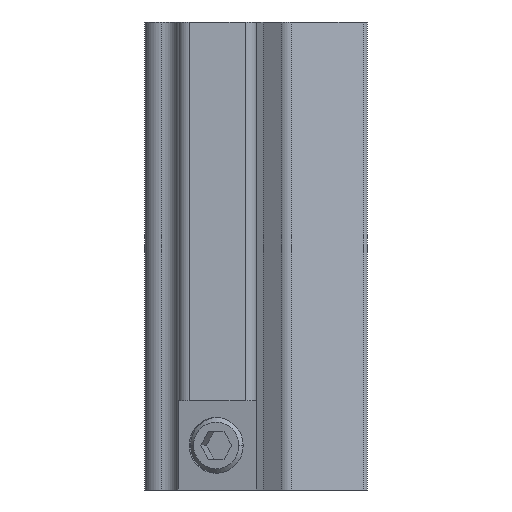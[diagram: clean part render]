
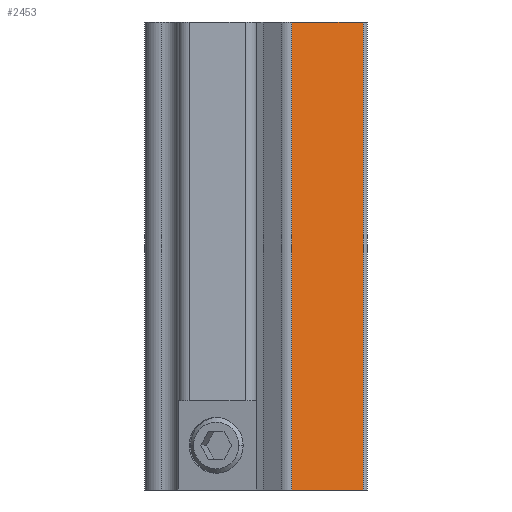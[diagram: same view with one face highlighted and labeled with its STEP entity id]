
A CAD part, front view. The second image highlights one B-rep face of the part: STEP entity #2453.
In plain terms, the highlighted planar face has unit normal (0.292, -0.956, 0).
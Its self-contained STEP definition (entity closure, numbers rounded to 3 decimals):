
#273=DIRECTION('',(-0.956,-0.292,0.));
#274=VECTOR('',#273,6.704);
#275=CARTESIAN_POINT('',(11.385,17.505,34.));
#276=LINE('',#275,#274);
#799=DIRECTION('',(0.,0.,-1.));
#800=VECTOR('',#799,42.);
#801=CARTESIAN_POINT('',(4.974,15.545,34.));
#802=LINE('',#801,#800);
#806=DIRECTION('',(0.,0.,1.));
#807=VECTOR('',#806,42.);
#808=CARTESIAN_POINT('',(11.385,17.505,-8.));
#809=LINE('',#808,#807);
#1108=DIRECTION('',(0.956,0.292,0.));
#1109=VECTOR('',#1108,6.704);
#1110=CARTESIAN_POINT('',(4.974,15.545,-8.));
#1111=LINE('',#1110,#1109);
#1730=CARTESIAN_POINT('',(11.385,17.505,34.));
#1731=VERTEX_POINT('',#1730);
#1732=CARTESIAN_POINT('',(4.974,15.545,34.));
#1733=VERTEX_POINT('',#1732);
#1840=CARTESIAN_POINT('',(4.974,15.545,-8.));
#1841=VERTEX_POINT('',#1840);
#1842=CARTESIAN_POINT('',(11.385,17.505,-8.));
#1843=VERTEX_POINT('',#1842);
#2440=CARTESIAN_POINT('',(11.864,17.651,34.));
#2441=DIRECTION('',(0.292,-0.956,0.));
#2442=DIRECTION('',(-0.956,-0.292,0.));
#2443=AXIS2_PLACEMENT_3D('',#2440,#2441,#2442);
#2444=PLANE('',#2443);
#2445=ORIENTED_EDGE('',*,*,#2433,.F.);
#2446=ORIENTED_EDGE('',*,*,#2029,.F.);
#2448=ORIENTED_EDGE('',*,*,#2447,.F.);
#2450=ORIENTED_EDGE('',*,*,#2449,.F.);
#2451=EDGE_LOOP('',(#2445,#2446,#2448,#2450));
#2452=FACE_OUTER_BOUND('',#2451,.F.);
#2453=ADVANCED_FACE('',(#2452),#2444,.T.);
#2029=EDGE_CURVE('',#1731,#1733,#276,.T.);
#2433=EDGE_CURVE('',#1733,#1841,#802,.T.);
#2447=EDGE_CURVE('',#1843,#1731,#809,.T.);
#2449=EDGE_CURVE('',#1841,#1843,#1111,.T.);
